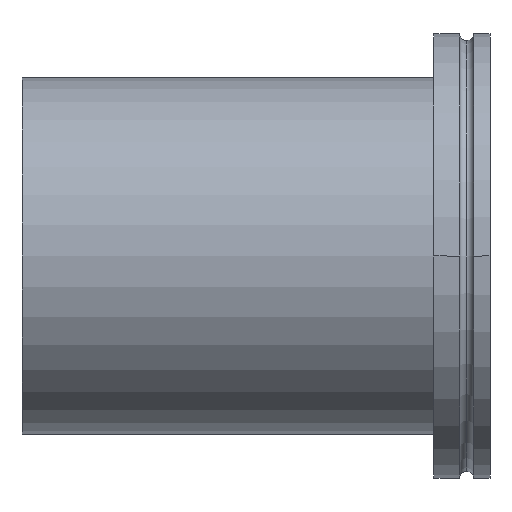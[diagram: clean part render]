
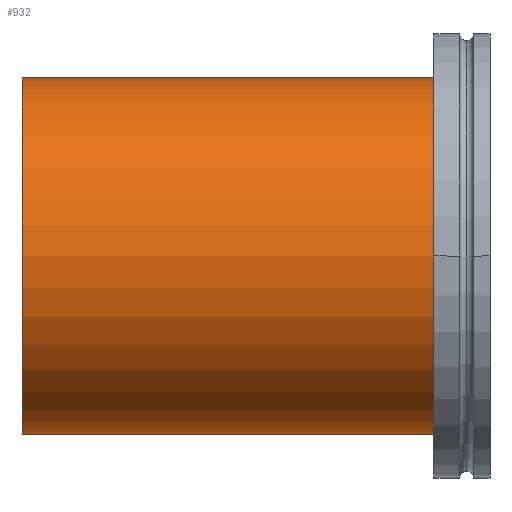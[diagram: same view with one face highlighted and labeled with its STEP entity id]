
A CAD part, front view. The second image highlights one B-rep face of the part: STEP entity #932.
In plain terms, the highlighted cylindrical face has radius 38.05 mm (diameter 76.1 mm), a partial arc.
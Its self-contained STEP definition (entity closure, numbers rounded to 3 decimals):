
#786=CARTESIAN_POINT('',(-88.0,0.,-38.05));
#787=VERTEX_POINT('',#786);
#788=CARTESIAN_POINT('',(6.0,0.,-38.05));
#789=VERTEX_POINT('',#788);
#790=CARTESIAN_POINT('',(-88.0,0.,-38.05));
#791=DIRECTION('',(1.0,0.0,0.0));
#792=VECTOR('',#791,94.0);
#793=LINE('',#790,#792);
#794=EDGE_CURVE('',#787,#789,#793,.T.);
#796=CARTESIAN_POINT('',(-88.0,0.,38.05));
#797=VERTEX_POINT('',#796);
#805=CARTESIAN_POINT('',(6.,0.,38.05));
#806=VERTEX_POINT('',#805);
#807=CARTESIAN_POINT('',(6.,0.,38.05));
#808=DIRECTION('',(-1.0,0.0,0.0));
#809=VECTOR('',#808,94.0);
#810=LINE('',#807,#809);
#811=EDGE_CURVE('',#806,#797,#810,.T.);
#909=CARTESIAN_POINT('',(-88.0,0.0,0.0));
#910=DIRECTION('',(1.0,0.0,0.0));
#911=DIRECTION('',(0.0,0.0,-1.0));
#912=AXIS2_PLACEMENT_3D('',#909,#910,#911);
#913=CYLINDRICAL_SURFACE('',#912,38.05);
#914=ORIENTED_EDGE('',*,*,#794,.T.);
#915=CARTESIAN_POINT('',(6.,0.0,0.0));
#916=DIRECTION('',(1.0,0.0,0.0));
#917=DIRECTION('',(0.0,0.0,-1.0));
#918=AXIS2_PLACEMENT_3D('',#915,#916,#917);
#919=CIRCLE('',#918,38.05);
#920=EDGE_CURVE('',#806,#789,#919,.T.);
#921=ORIENTED_EDGE('',*,*,#920,.F.);
#922=ORIENTED_EDGE('',*,*,#811,.T.);
#923=CARTESIAN_POINT('',(-88.0,0.0,0.0));
#924=DIRECTION('',(-1.0,0.0,0.0));
#925=DIRECTION('',(0.0,0.0,-1.0));
#926=AXIS2_PLACEMENT_3D('',#923,#924,#925);
#927=CIRCLE('',#926,38.05);
#928=EDGE_CURVE('',#787,#797,#927,.T.);
#929=ORIENTED_EDGE('',*,*,#928,.F.);
#930=EDGE_LOOP('',(#914,#921,#922,#929));
#931=FACE_OUTER_BOUND('',#930,.T.);
#932=ADVANCED_FACE('',(#931),#913,.T.);
